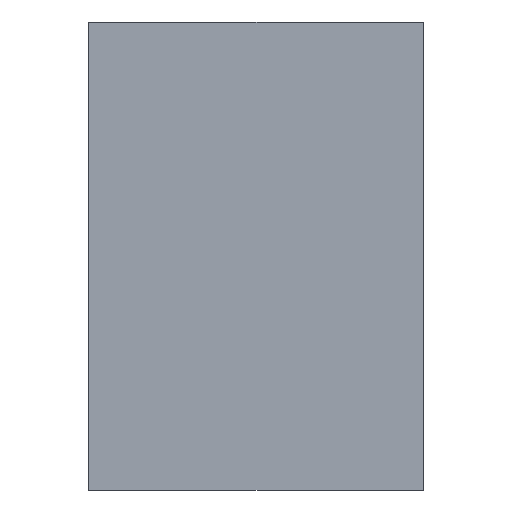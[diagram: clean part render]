
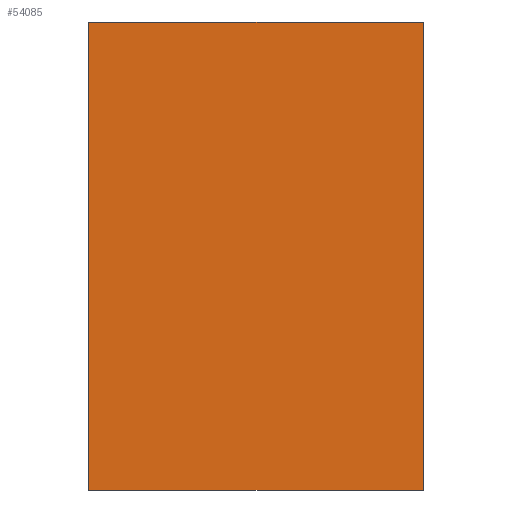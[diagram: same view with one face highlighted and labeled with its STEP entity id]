
A CAD part, front view. The second image highlights one B-rep face of the part: STEP entity #54085.
In plain terms, the highlighted planar face has unit normal (0, -1, 0).
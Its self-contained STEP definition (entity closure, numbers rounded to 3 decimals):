
#3339=FACE_OUTER_BOUND('',#6639,.T.);
#6639=EDGE_LOOP('',(#48378,#48379,#48380,#48381,#48382));
#10482=LINE('',#77977,#17828);
#10740=LINE('',#78492,#18086);
#13977=LINE('',#85194,#21323);
#13979=LINE('',#85198,#21325);
#13980=LINE('',#85200,#21326);
#17828=VECTOR('',#63718,10.);
#18086=VECTOR('',#63980,10.);
#21323=VECTOR('',#69997,10.);
#21325=VECTOR('',#70001,10.);
#21326=VECTOR('',#70004,10.);
#23990=VERTEX_POINT('',#77974);
#23991=VERTEX_POINT('',#77976);
#24246=VERTEX_POINT('',#78490);
#26321=VERTEX_POINT('',#85192);
#26322=VERTEX_POINT('',#85196);
#30182=EDGE_CURVE('',#23991,#23990,#10482,.T.);
#30440=EDGE_CURVE('',#23990,#24246,#10740,.T.);
#33677=EDGE_CURVE('',#24246,#26321,#13977,.T.);
#33679=EDGE_CURVE('',#26321,#26322,#13979,.T.);
#33680=EDGE_CURVE('',#26322,#23991,#13980,.T.);
#48378=ORIENTED_EDGE('',*,*,#30440,.T.);
#48379=ORIENTED_EDGE('',*,*,#33677,.T.);
#48380=ORIENTED_EDGE('',*,*,#33679,.T.);
#48381=ORIENTED_EDGE('',*,*,#33680,.T.);
#48382=ORIENTED_EDGE('',*,*,#30182,.T.);
#51244=PLANE('',#56961);
#54085=ADVANCED_FACE('',(#3339),#51244,.T.);
#56961=AXIS2_PLACEMENT_3D('',#85199,#70002,#70003);
#63718=DIRECTION('',(1.,0.,0.));
#63980=DIRECTION('',(0.,0.,1.));
#69997=DIRECTION('',(0.,0.,1.));
#70001=DIRECTION('',(-1.,0.,0.));
#70002=DIRECTION('center_axis',(0.,-1.,0.));
#70003=DIRECTION('ref_axis',(0.,0.,-1.));
#70004=DIRECTION('',(0.,0.,-1.));
#77974=CARTESIAN_POINT('',(288.,-788.,-100.));
#77976=CARTESIAN_POINT('',(-288.,-788.,-100.));
#77977=CARTESIAN_POINT('',(288.,-788.,-100.));
#78490=CARTESIAN_POINT('',(288.,-788.,608.5));
#78492=CARTESIAN_POINT('',(288.,-788.,707.));
#85192=CARTESIAN_POINT('',(288.,-788.,707.));
#85194=CARTESIAN_POINT('',(288.,-788.,707.));
#85196=CARTESIAN_POINT('',(-288.,-788.,707.));
#85198=CARTESIAN_POINT('',(-288.,-788.,707.));
#85199=CARTESIAN_POINT('Origin',(0.,-788.,303.5));
#85200=CARTESIAN_POINT('',(-288.,-788.,-100.));
